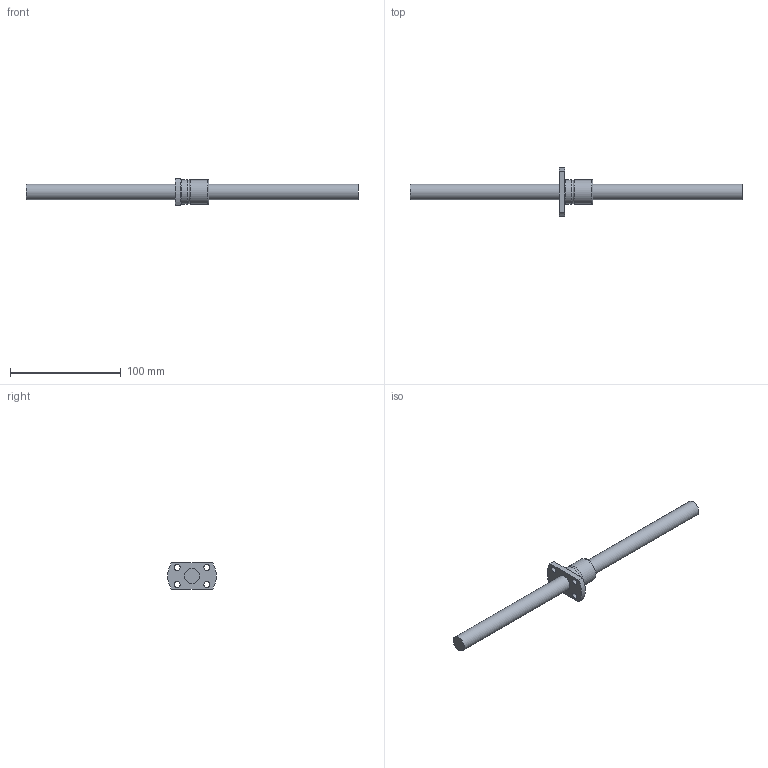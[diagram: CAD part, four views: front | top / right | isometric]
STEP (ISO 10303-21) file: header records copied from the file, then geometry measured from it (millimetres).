
FILE_DESCRIPTION((''),'2;1');
FILE_NAME('D:\製品 (図面)\カタログ用3D\ネジ関連\STEP形式\TMK-OH\TMK14-OH.stp','2010-06-02T15:27:26',('Tsuchiya'),(''),'Autodesk Inventor 10','Autodesk Inventor 10','');
FILE_SCHEMA(('AUTOMOTIVE_DESIGN { 1 0 10303 214 1 1 1 1 }'));
Length unit declared in the file: millimetre
Products named in the file (3): TMK14-OH; TMK14-OH1; TMK14-OH2
Assembly tree (2 placements, depth 2):
  TMK14-OH
    TMK14-OH1
    TMK14-OH2
Bounding box: 300 x 43.85 x 24 mm (x, y, z)
Volume: 55538.3 mm3; surface area: 19003.4 mm2
Topology: 2 solids, 2 shells, 21 faces, 49 edges, 33 vertices
Faces by surface type: cylinder 7, plane 7, bspline 6, torus 1
Full cylindrical faces by diameter (mm): 1.5 x1, 14 x2, 22 x2
Entity records: 866 total; most frequent: CARTESIAN_POINT 372, DIRECTION 92, ORIENTED_EDGE 64, EDGE_LOOP 46, AXIS2_PLACEMENT_3D 42, EDGE_CURVE 32, VERTEX_POINT 28, FACE_BOUND 25
